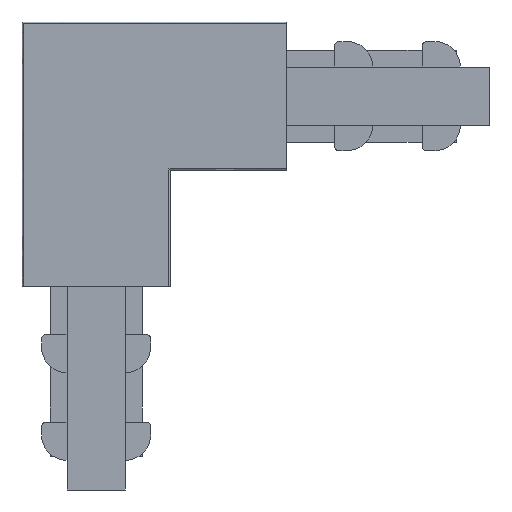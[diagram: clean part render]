
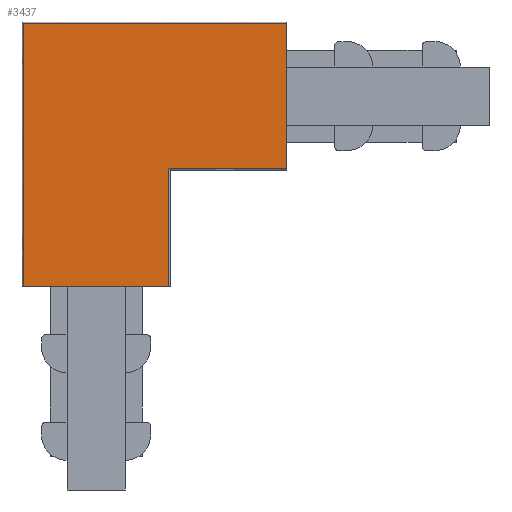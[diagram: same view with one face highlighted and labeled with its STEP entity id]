
A CAD part, front view. The second image highlights one B-rep face of the part: STEP entity #3437.
In plain terms, the highlighted planar face has unit normal (0, -1, 0).
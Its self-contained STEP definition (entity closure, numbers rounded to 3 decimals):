
#28 = VECTOR ( 'NONE', #384, 1000. ) ;
#53 = CARTESIAN_POINT ( 'NONE',  ( 417.935, 139.387, 62.208 ) ) ;
#57 = VERTEX_POINT ( 'NONE', #1756 ) ;
#260 = VERTEX_POINT ( 'NONE', #3356 ) ;
#261 = CARTESIAN_POINT ( 'NONE',  ( 420.727, 139.387, 62.208 ) ) ;
#384 = DIRECTION ( 'NONE',  ( 0., 0., -1. ) ) ;
#426 = DIRECTION ( 'NONE',  ( 1., 0., 0. ) ) ;
#561 = DIRECTION ( 'NONE',  ( 0., 0., -1. ) ) ;
#605 = DIRECTION ( 'NONE',  ( 0., 0., 1. ) ) ;
#818 = VECTOR ( 'NONE', #3786, 1000. ) ;
#931 = CARTESIAN_POINT ( 'NONE',  ( 420.727, 139.387, 65. ) ) ;
#982 = EDGE_CURVE ( 'NONE', #2947, #1976, #3964, .T. ) ;
#1074 = LINE ( 'NONE', #3336, #2004 ) ;
#1102 = ORIENTED_EDGE ( 'NONE', *, *, #3830, .T. ) ;
#1172 = CARTESIAN_POINT ( 'NONE',  ( 455.143, 139.387, 27.792 ) ) ;
#1274 = VERTEX_POINT ( 'NONE', #1172 ) ;
#1374 = EDGE_CURVE ( 'NONE', #1274, #2534, #2548, .T. ) ;
#1427 = EDGE_CURVE ( 'NONE', #260, #1976, #1074, .T. ) ;
#1474 = LINE ( 'NONE', #2110, #28 ) ;
#1583 = CARTESIAN_POINT ( 'NONE',  ( 455.143, 139.387, 0. ) ) ;
#1756 = CARTESIAN_POINT ( 'NONE',  ( 420.727, 139.387, 0. ) ) ;
#1889 = ORIENTED_EDGE ( 'NONE', *, *, #3588, .T. ) ;
#1948 = DIRECTION ( 'NONE',  ( 0., 0., 1. ) ) ;
#1976 = VERTEX_POINT ( 'NONE', #2665 ) ;
#2004 = VECTOR ( 'NONE', #1948, 1000. ) ;
#2075 = ORIENTED_EDGE ( 'NONE', *, *, #982, .F. ) ;
#2110 = CARTESIAN_POINT ( 'NONE',  ( 420.727, 139.387, 65. ) ) ;
#2244 = DIRECTION ( 'NONE',  ( 0., 1., 0. ) ) ;
#2534 = VERTEX_POINT ( 'NONE', #1583 ) ;
#2548 = LINE ( 'NONE', #2860, #3319 ) ;
#2665 = CARTESIAN_POINT ( 'NONE',  ( 482.935, 139.387, 62.208 ) ) ;
#2752 = EDGE_CURVE ( 'NONE', #1274, #260, #3313, .T. ) ;
#2860 = CARTESIAN_POINT ( 'NONE',  ( 455.143, 139.387, 65. ) ) ;
#2939 = EDGE_LOOP ( 'NONE', ( #2075, #1102, #1889, #3496, #4053, #3244 ) ) ;
#2947 = VERTEX_POINT ( 'NONE', #261 ) ;
#3014 = AXIS2_PLACEMENT_3D ( 'NONE', #931, #2244, #605 ) ;
#3103 = VECTOR ( 'NONE', #426, 1000. ) ;
#3244 = ORIENTED_EDGE ( 'NONE', *, *, #1427, .T. ) ;
#3313 = LINE ( 'NONE', #3333, #3636 ) ;
#3319 = VECTOR ( 'NONE', #561, 1000. ) ;
#3333 = CARTESIAN_POINT ( 'NONE',  ( 417.935, 139.387, 27.792 ) ) ;
#3336 = CARTESIAN_POINT ( 'NONE',  ( 482.935, 139.387, 27.792 ) ) ;
#3356 = CARTESIAN_POINT ( 'NONE',  ( 482.935, 139.387, 27.792 ) ) ;
#3437 = ADVANCED_FACE ( 'NONE', ( #3887 ), #3544, .F. ) ;
#3496 = ORIENTED_EDGE ( 'NONE', *, *, #1374, .F. ) ;
#3544 = PLANE ( 'NONE',  #3014 ) ;
#3588 = EDGE_CURVE ( 'NONE', #57, #2534, #3744, .T. ) ;
#3636 = VECTOR ( 'NONE', #4024, 1000. ) ;
#3744 = LINE ( 'NONE', #4083, #818 ) ;
#3786 = DIRECTION ( 'NONE',  ( 1., 0., 0. ) ) ;
#3830 = EDGE_CURVE ( 'NONE', #2947, #57, #1474, .T. ) ;
#3887 = FACE_OUTER_BOUND ( 'NONE', #2939, .T. ) ;
#3964 = LINE ( 'NONE', #53, #3103 ) ;
#4024 = DIRECTION ( 'NONE',  ( 1., 0., 0. ) ) ;
#4053 = ORIENTED_EDGE ( 'NONE', *, *, #2752, .T. ) ;
#4083 = CARTESIAN_POINT ( 'NONE',  ( 420.727, 139.387, 0. ) ) ;
